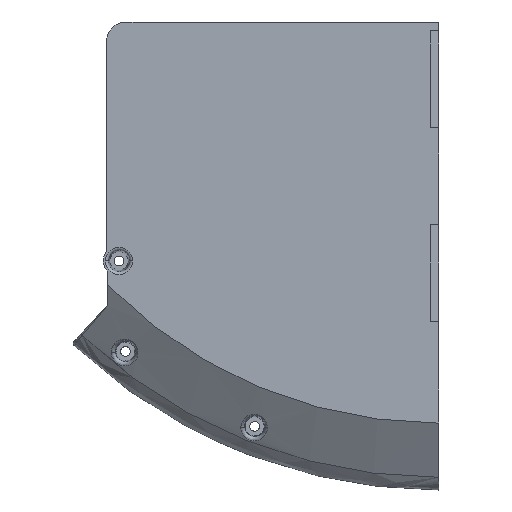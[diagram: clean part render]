
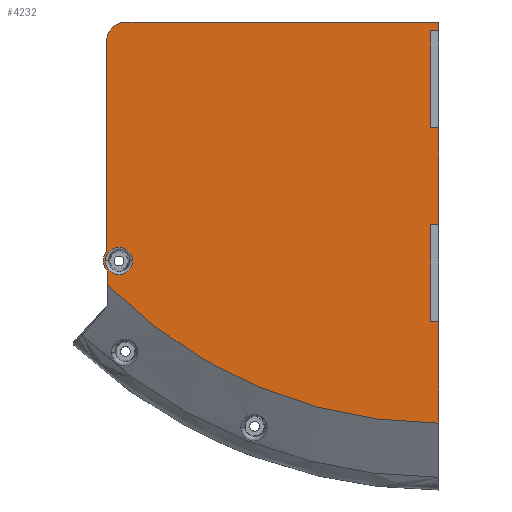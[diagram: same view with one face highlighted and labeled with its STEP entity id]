
A CAD part, front view. The second image highlights one B-rep face of the part: STEP entity #4232.
In plain terms, the highlighted planar face has unit normal (0, -1, 0).
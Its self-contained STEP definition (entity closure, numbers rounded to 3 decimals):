
#2=CARTESIAN_POINT('',(-99.,-29.,-94.));
#3=DIRECTION('',(0.,1.,0.));
#4=DIRECTION('',(1.,0.,0.));
#5=AXIS2_PLACEMENT_3D('',#2,#3,#4);
#7=CARTESIAN_POINT('',(-99.,-29.,-94.));
#8=DIRECTION('',(0.,1.,0.));
#9=DIRECTION('',(-1.,0.,0.));
#10=AXIS2_PLACEMENT_3D('',#7,#8,#9);
#12=DIRECTION('',(0.,0.,-1.));
#13=VECTOR('',#12,0.911);
#14=CARTESIAN_POINT('',(0.,-29.,-143.304));
#15=LINE('',#14,#13);
#16=CARTESIAN_POINT('',(0.,-29.,0.));
#17=DIRECTION('',(0.,-1.,0.));
#18=DIRECTION('',(-0.711,0.,-0.703));
#19=AXIS2_PLACEMENT_3D('',#16,#17,#18);
#21=DIRECTION('',(0.,0.,-1.));
#22=VECTOR('',#21,4.11);
#23=CARTESIAN_POINT('',(-102.5,-29.,-97.338));
#24=LINE('',#23,#22);
#25=CARTESIAN_POINT('',(-99.,-29.,-94.));
#26=DIRECTION('',(0.,1.,0.));
#27=DIRECTION('',(-0.724,0.,-0.69));
#28=AXIS2_PLACEMENT_3D('',#25,#26,#27);
#30=DIRECTION('',(0.,0.,1.));
#31=VECTOR('',#30,65.055);
#32=CARTESIAN_POINT('',(-102.837,-29.,-91.055));
#33=LINE('',#32,#31);
#34=CARTESIAN_POINT('',(-96.837,-29.,-26.));
#35=DIRECTION('',(0.,-1.,0.));
#36=DIRECTION('',(0.,0.,1.));
#37=AXIS2_PLACEMENT_3D('',#34,#35,#36);
#39=DIRECTION('',(1.,0.,0.));
#40=VECTOR('',#39,96.837);
#41=CARTESIAN_POINT('',(-96.837,-29.,-20.));
#42=LINE('',#41,#40);
#43=DIRECTION('',(0.,0.,-1.));
#44=VECTOR('',#43,2.75);
#45=CARTESIAN_POINT('',(0.,-29.,-20.));
#46=LINE('',#45,#44);
#47=DIRECTION('',(-1.,0.,0.));
#48=VECTOR('',#47,2.5);
#49=CARTESIAN_POINT('',(0.,-29.,-22.75));
#50=LINE('',#49,#48);
#51=DIRECTION('',(0.,0.,1.));
#52=VECTOR('',#51,30.);
#53=CARTESIAN_POINT('',(-2.5,-29.,-52.75));
#54=LINE('',#53,#52);
#55=DIRECTION('',(-1.,0.,0.));
#56=VECTOR('',#55,2.5);
#57=CARTESIAN_POINT('',(0.,-29.,-52.75));
#58=LINE('',#57,#56);
#59=DIRECTION('',(0.,0.,1.));
#60=VECTOR('',#59,30.);
#61=CARTESIAN_POINT('',(0.,-29.,-82.75));
#62=LINE('',#61,#60);
#63=DIRECTION('',(-1.,0.,0.));
#64=VECTOR('',#63,2.5);
#65=CARTESIAN_POINT('',(0.,-29.,-82.75));
#66=LINE('',#65,#64);
#67=DIRECTION('',(0.,0.,1.));
#68=VECTOR('',#67,30.);
#69=CARTESIAN_POINT('',(-2.5,-29.,-112.75));
#70=LINE('',#69,#68);
#71=DIRECTION('',(-1.,0.,0.));
#72=VECTOR('',#71,2.5);
#73=CARTESIAN_POINT('',(0.,-29.,-112.75));
#74=LINE('',#73,#72);
#75=DIRECTION('',(0.,0.,1.));
#76=VECTOR('',#75,30.554);
#77=CARTESIAN_POINT('',(0.,-29.,-143.304));
#78=LINE('',#77,#76);
#586=CARTESIAN_POINT('',(-102.5,-29.,-97.338));
#605=CARTESIAN_POINT('',(-102.837,-29.,-91.055));
#3409=CARTESIAN_POINT('',(-94.779,-29.,-94.));
#3410=CARTESIAN_POINT('',(-103.221,-29.,-94.));
#3411=VERTEX_POINT('',#3409);
#3412=VERTEX_POINT('',#3410);
#3470=VERTEX_POINT('',#586);
#3505=CARTESIAN_POINT('',(-102.5,-29.,-101.449));
#3506=VERTEX_POINT('',#3505);
#3509=CARTESIAN_POINT('',(-96.837,-29.,-20.));
#3510=CARTESIAN_POINT('',(-102.837,-29.,-26.));
#3511=VERTEX_POINT('',#3509);
#3512=VERTEX_POINT('',#3510);
#3539=VERTEX_POINT('',#605);
#4103=CARTESIAN_POINT('',(0.,-29.,-144.215));
#4105=VERTEX_POINT('',#4103);
#4129=CARTESIAN_POINT('',(0.,-29.,-20.));
#4130=VERTEX_POINT('',#4129);
#4139=CARTESIAN_POINT('',(0.,-29.,-22.75));
#4140=CARTESIAN_POINT('',(-2.5,-29.,-22.75));
#4141=VERTEX_POINT('',#4139);
#4142=VERTEX_POINT('',#4140);
#4143=CARTESIAN_POINT('',(-2.5,-29.,-52.75));
#4144=VERTEX_POINT('',#4143);
#4156=CARTESIAN_POINT('',(0.,-29.,-52.75));
#4158=VERTEX_POINT('',#4156);
#4159=CARTESIAN_POINT('',(0.,-29.,-82.75));
#4160=CARTESIAN_POINT('',(-2.5,-29.,-82.75));
#4161=VERTEX_POINT('',#4159);
#4162=VERTEX_POINT('',#4160);
#4163=CARTESIAN_POINT('',(-2.5,-29.,-112.75));
#4164=VERTEX_POINT('',#4163);
#4169=CARTESIAN_POINT('',(0.,-29.,-143.304));
#4170=CARTESIAN_POINT('',(0.,-29.,-112.75));
#4171=VERTEX_POINT('',#4169);
#4172=VERTEX_POINT('',#4170);
#4187=CARTESIAN_POINT('',(0.,-29.,0.));
#4188=DIRECTION('',(0.,-1.,0.));
#4189=DIRECTION('',(0.,0.,-1.));
#4190=AXIS2_PLACEMENT_3D('',#4187,#4188,#4189);
#4191=PLANE('',#4190);
#4193=ORIENTED_EDGE('',*,*,#4192,.T.);
#4195=ORIENTED_EDGE('',*,*,#4194,.F.);
#4197=ORIENTED_EDGE('',*,*,#4196,.F.);
#4199=ORIENTED_EDGE('',*,*,#4198,.T.);
#4201=ORIENTED_EDGE('',*,*,#4200,.T.);
#4203=ORIENTED_EDGE('',*,*,#4202,.F.);
#4205=ORIENTED_EDGE('',*,*,#4204,.T.);
#4207=ORIENTED_EDGE('',*,*,#4206,.T.);
#4209=ORIENTED_EDGE('',*,*,#4208,.T.);
#4211=ORIENTED_EDGE('',*,*,#4210,.F.);
#4213=ORIENTED_EDGE('',*,*,#4212,.F.);
#4215=ORIENTED_EDGE('',*,*,#4214,.F.);
#4217=ORIENTED_EDGE('',*,*,#4216,.T.);
#4219=ORIENTED_EDGE('',*,*,#4218,.F.);
#4221=ORIENTED_EDGE('',*,*,#4220,.F.);
#4223=ORIENTED_EDGE('',*,*,#4222,.F.);
#4224=EDGE_LOOP('',(#4193,#4195,#4197,#4199,#4201,#4203,#4205,#4207,#4209,#4211,
#4213,#4215,#4217,#4219,#4221,#4223));
#4225=FACE_OUTER_BOUND('',#4224,.F.);
#4227=ORIENTED_EDGE('',*,*,#4226,.F.);
#4229=ORIENTED_EDGE('',*,*,#4228,.F.);
#4230=EDGE_LOOP('',(#4227,#4229));
#4231=FACE_BOUND('',#4230,.F.);
#4232=ADVANCED_FACE('',(#4225,#4231),#4191,.T.);
#6=CIRCLE('',#5,4.221);
#11=CIRCLE('',#10,4.221);
#20=CIRCLE('',#19,144.215);
#29=CIRCLE('',#28,4.837);
#38=CIRCLE('',#37,6.);
#4192=EDGE_CURVE('',#4171,#4105,#15,.T.);
#4194=EDGE_CURVE('',#3506,#4105,#20,.T.);
#4196=EDGE_CURVE('',#3470,#3506,#24,.T.);
#4198=EDGE_CURVE('',#3470,#3539,#29,.T.);
#4200=EDGE_CURVE('',#3539,#3512,#33,.T.);
#4202=EDGE_CURVE('',#3511,#3512,#38,.T.);
#4204=EDGE_CURVE('',#3511,#4130,#42,.T.);
#4206=EDGE_CURVE('',#4130,#4141,#46,.T.);
#4208=EDGE_CURVE('',#4141,#4142,#50,.T.);
#4210=EDGE_CURVE('',#4144,#4142,#54,.T.);
#4212=EDGE_CURVE('',#4158,#4144,#58,.T.);
#4214=EDGE_CURVE('',#4161,#4158,#62,.T.);
#4216=EDGE_CURVE('',#4161,#4162,#66,.T.);
#4218=EDGE_CURVE('',#4164,#4162,#70,.T.);
#4220=EDGE_CURVE('',#4172,#4164,#74,.T.);
#4222=EDGE_CURVE('',#4171,#4172,#78,.T.);
#4226=EDGE_CURVE('',#3411,#3412,#6,.T.);
#4228=EDGE_CURVE('',#3412,#3411,#11,.T.);
